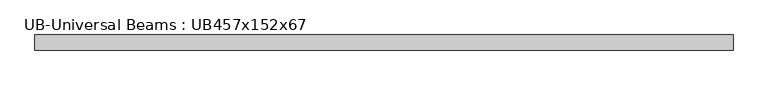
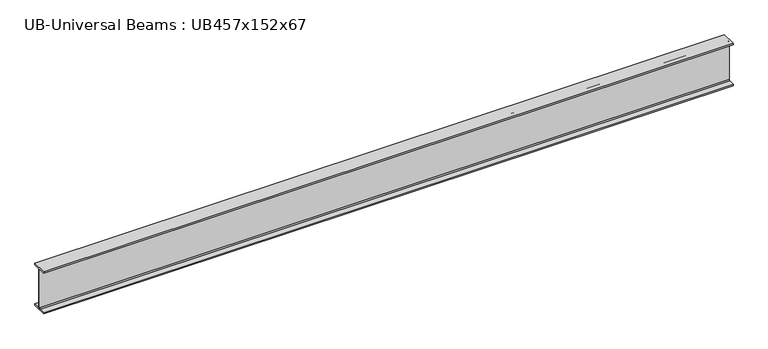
"""IFC4 building model written with IfcOpenShell, lengths in millimetres: beam geometry, UB-Universal Beams : UB457x152x67."""

from ifc_helpers import new_model, si_unit, point, frame, frame_2d, origin, place, context, project, spatial, polyline, circle_curve, trimmed, segment, composite_curve, outline, extrude, source, transform, mapped, element, save


def ub_universal_beams_ub457x152x67_b8e2def0(model_context):
    return source(origin(), model_context, "Body", "SweptSolid", [
        extrude(outline(composite_curve([segment(polyline([(76.9, -214.0), (76.9, -229.0), (-76.9, -229.0), (-76.9, -214.0), (-14.7, -214.0)]), True, "CONTINUOUS"), segment(trimmed(circle_curve(frame_2d((-14.7, -203.8)), 10.2), [point((-14.7, -214.0))], [point((-4.5, -203.8))], True, "CARTESIAN"), True, "CONTINUOUS"), segment(polyline([(-4.5, -203.8), (-4.5, 203.8)]), True, "CONTINUOUS"), segment(trimmed(circle_curve(frame_2d((-14.7, 203.8)), 10.2), [point((-4.5, 203.8))], [point((-14.7, 214.0))], True, "CARTESIAN"), True, "CONTINUOUS"), segment(polyline([(-14.7, 214.0), (-76.9, 214.0), (-76.9, 229.0), (76.9, 229.0), (76.9, 214.0), (14.7, 214.0)]), True, "CONTINUOUS"), segment(trimmed(circle_curve(frame_2d((14.7, 203.8)), 10.2), [point((14.7, 214.0))], [point((4.5, 203.8))], True, "CARTESIAN"), True, "CONTINUOUS"), segment(polyline([(4.5, 203.8), (4.5, -203.8)]), True, "CONTINUOUS"), segment(trimmed(circle_curve(frame_2d((14.7, -203.8)), 10.2), [point((4.5, -203.8))], [point((14.7, -214.0))], True, "CARTESIAN"), True, "CONTINUOUS"), segment(polyline([(14.7, -214.0), (76.9, -214.0)]), True, "CONTINUOUS")], self_intersect=False)), frame((-3517.3, 0.0, 0.0), z_axis=(1.0, 0.0, 0.0), x_axis=(0.0, 1.0, 0.0)), (0.0, 0.0, 1.0), 7092.1),
    ])


if __name__ == "__main__":
    model = new_model("IFC4")
    model_context = context("Model", 3, world=origin())
    ifc_project = project(units=[si_unit("LENGTHUNIT", "METRE", prefix="MILLI")], contexts=[model_context])
    site = spatial("IfcSite", under=ifc_project)
    building = spatial("IfcBuilding", under=site)
    placement = place(None, origin())
    ub_universal_beams_ub457x152x67_shape = ub_universal_beams_ub457x152x67_b8e2def0(model_context)
    element("IfcBeam", 1, ObjectType="UB-Universal Beams : UB457x152x67", at=placement, inside=building, context=model_context, shape_type="MappedRepresentation", body=[
        mapped(ub_universal_beams_ub457x152x67_shape, transform((0.0, 0.0, 0.0), x_axis=(1.0, 0.0, 0.0), y_axis=(0.0, 1.0, 0.0), z_axis=(0.0, 0.0, 1.0))),
    ])
    save(model, "model.ifc")
